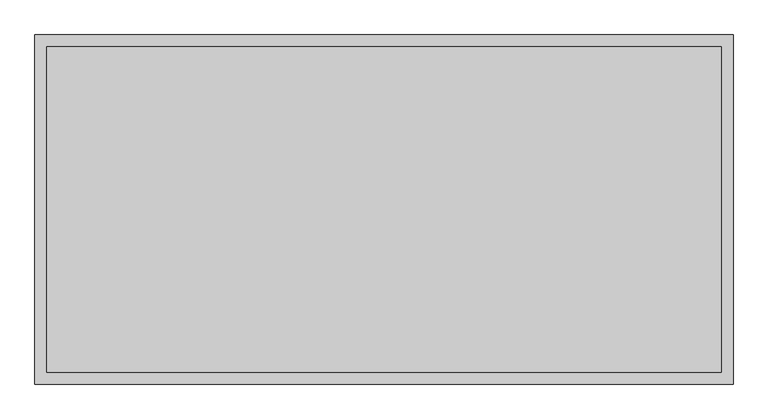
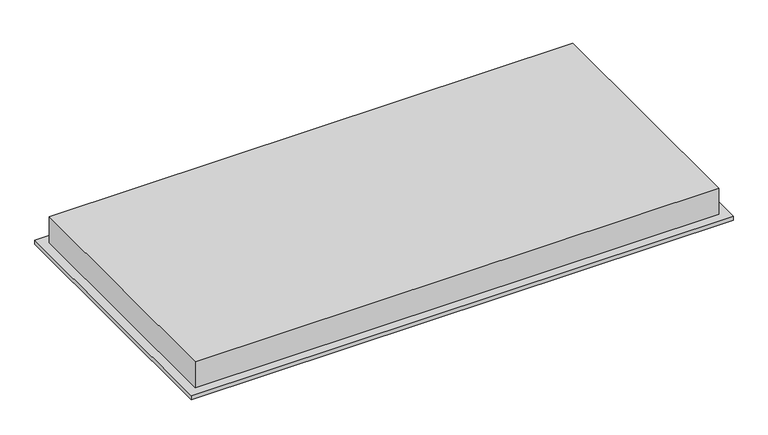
"""IFC4 building model written with IfcOpenShell, lengths in millimetres: light fixture geometry, GENILED_Светильник светодиодный_Rockfon Advanced : Office Rockfon Advanced 1200x600x70 120Вт Опал."""

from ifc_helpers import new_model, si_unit, origin, place, context, project, spatial, faceted_brep, source, transform, mapped, element, save


def light_fixture_35556cd1(model_context):
    return source(origin(), model_context, "Body", "Brep", [
        faceted_brep([(600.0, 300.0, 9.0), (-600.0, 300.0, 9.0), (-600.0, -300.0, 9.0), (600.0, -300.0, 9.0), (-580.0, 280.0, 9.0), (580.0, 280.0, 9.0), (580.0, -280.0, 9.0), (-580.0, -280.0, 9.0), (600.0, 300.0, 0.0), (600.0, -300.0, 0.0), (-600.0, -300.0, 0.0), (-600.0, 300.0, 0.0), (580.0, 280.0, 0.0), (-580.0, 280.0, 0.0), (-580.0, -280.0, 0.0), (580.0, -280.0, 0.0), (580.0, -280.0, 5.0), (580.0, 280.0, 5.0), (-580.0, -280.0, 5.0), (-580.0, 280.0, 5.0), (-580.0, 280.0, 70.0), (580.0, 280.0, 70.0), (-580.0, -280.0, 70.0), (580.0, -280.0, 70.0)], [[[0, 1, 2, 3], [4, 5, 6, 7]], [[8, 9, 10, 11], [12, 13, 14, 15]], [[1, 0, 8, 11]], [[2, 1, 11, 10]], [[3, 2, 10, 9]], [[0, 3, 9, 8]], [[12, 15, 16, 17]], [[15, 14, 18, 16]], [[14, 13, 19, 18]], [[13, 12, 17, 19]], [[17, 16, 18, 19]], [[5, 4, 20, 21]], [[22, 20, 4, 7]], [[23, 22, 7, 6]], [[5, 21, 23, 6]], [[21, 20, 22, 23]]]),
    ])


if __name__ == "__main__":
    model = new_model("IFC4")
    model_context = context("Model", 3, world=origin())
    ifc_project = project(units=[si_unit("LENGTHUNIT", "METRE", prefix="MILLI")], contexts=[model_context])
    site = spatial("IfcSite", under=ifc_project)
    building = spatial("IfcBuilding", under=site)
    placement = place(None, origin())
    light_fixture_shape = light_fixture_35556cd1(model_context)
    element("IfcLightFixture", 1, ObjectType="GENILED_Светильник светодиодный_Rockfon Advanced : Office Rockfon Advanced 1200x600x70 120Вт Опал", at=placement, inside=building, context=model_context, shape_type="MappedRepresentation", body=[
        mapped(light_fixture_shape, transform((0.0, 0.0, 0.0), x_axis=(1.0, 0.0, 0.0), y_axis=(0.0, 1.0, 0.0), z_axis=(0.0, 0.0, 1.0))),
    ])
    save(model, "model.ifc")
